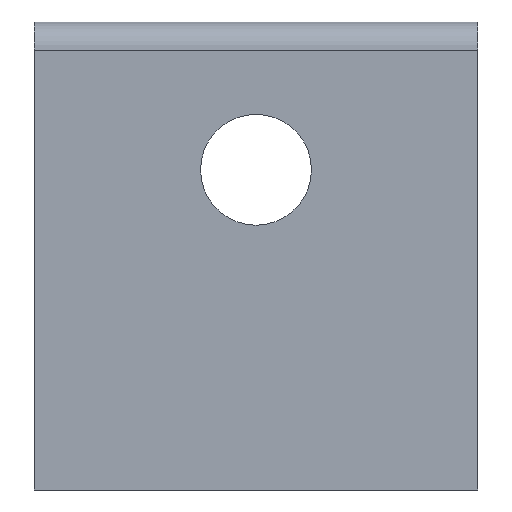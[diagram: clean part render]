
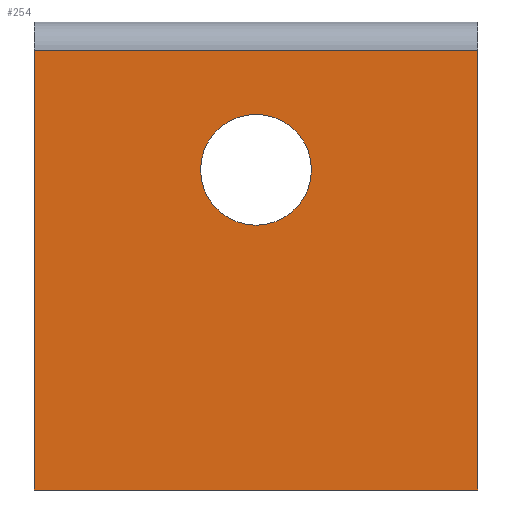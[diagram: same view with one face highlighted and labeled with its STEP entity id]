
A CAD part, left-side view. The second image highlights one B-rep face of the part: STEP entity #254.
In plain terms, the highlighted planar face has unit normal (-1, 0, 0).
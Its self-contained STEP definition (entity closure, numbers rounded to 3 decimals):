
#32=LINE('',#359,#46);
#33=LINE('',#363,#47);
#34=LINE('',#365,#48);
#35=LINE('',#367,#49);
#46=VECTOR('',#302,1000.);
#47=VECTOR('',#307,1000.);
#48=VECTOR('',#308,1000.);
#49=VECTOR('',#309,1000.);
#63=ORIENTED_EDGE('',*,*,#107,.T.);
#64=ORIENTED_EDGE('',*,*,#108,.T.);
#65=ORIENTED_EDGE('',*,*,#109,.T.);
#66=ORIENTED_EDGE('',*,*,#110,.F.);
#67=ORIENTED_EDGE('',*,*,#106,.T.);
#106=EDGE_CURVE('',#126,#128,#32,.T.);
#107=EDGE_CURVE('',#129,#129,#137,.T.);
#108=EDGE_CURVE('',#128,#130,#33,.T.);
#109=EDGE_CURVE('',#130,#131,#34,.F.);
#110=EDGE_CURVE('',#126,#131,#35,.T.);
#126=VERTEX_POINT('',#354);
#128=VERTEX_POINT('',#358);
#129=VERTEX_POINT('',#362);
#130=VERTEX_POINT('',#364);
#131=VERTEX_POINT('',#366);
#137=CIRCLE('',#272,2.25);
#147=EDGE_LOOP('',(#63));
#148=EDGE_LOOP('',(#64,#65,#66,#67));
#163=FACE_BOUND('',#147,.T.);
#164=FACE_BOUND('',#148,.T.);
#177=PLANE('',#271);
#254=ADVANCED_FACE('',(#163,#164),#177,.F.);
#271=AXIS2_PLACEMENT_3D('',#360,#303,#304);
#272=AXIS2_PLACEMENT_3D('',#361,#305,#306);
#302=DIRECTION('',(0.,-1.,0.));
#303=DIRECTION('',(1.,0.,0.));
#304=DIRECTION('',(0.,0.,-1.));
#305=DIRECTION('',(1.,0.,0.));
#306=DIRECTION('',(0.,0.,1.));
#307=DIRECTION('',(0.,0.,1.));
#308=DIRECTION('',(0.,-1.,0.));
#309=DIRECTION('',(0.,0.,1.));
#354=CARTESIAN_POINT('',(0.,18.,0.));
#358=CARTESIAN_POINT('',(0.,0.,0.));
#359=CARTESIAN_POINT('',(0.,18.,0.));
#360=CARTESIAN_POINT('',(0.,18.,0.));
#361=CARTESIAN_POINT('',(0.,9.,13.));
#362=CARTESIAN_POINT('',(0.,9.,15.25));
#363=CARTESIAN_POINT('',(0.,0.,0.));
#364=CARTESIAN_POINT('',(0.,0.,17.85));
#365=CARTESIAN_POINT('',(0.,18.,17.85));
#366=CARTESIAN_POINT('',(0.,18.,17.85));
#367=CARTESIAN_POINT('',(0.,18.,0.));
